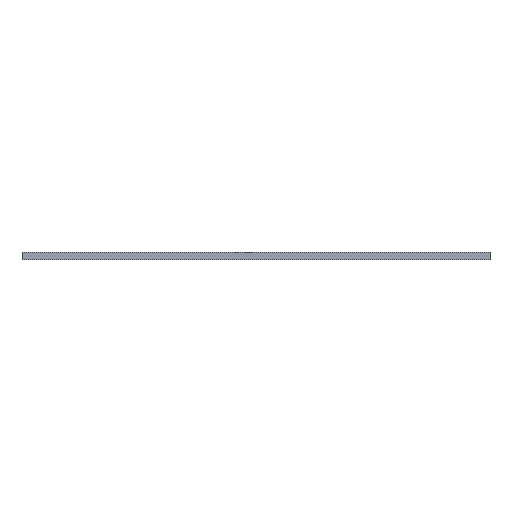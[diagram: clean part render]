
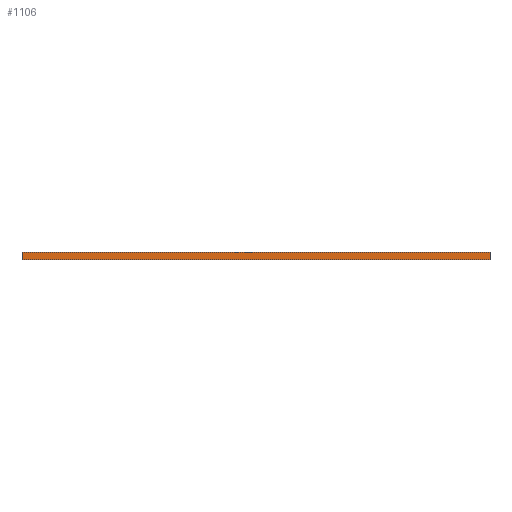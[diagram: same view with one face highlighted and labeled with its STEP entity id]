
A CAD part, front view. The second image highlights one B-rep face of the part: STEP entity #1106.
In plain terms, the highlighted planar face has unit normal (0, -1, 0).
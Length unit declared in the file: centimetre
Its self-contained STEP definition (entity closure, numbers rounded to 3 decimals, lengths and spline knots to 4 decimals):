
#106=VECTOR('',#1329,1.);
#111=VECTOR('',#1423,1.);
#114=VECTOR('',#1560,1.);
#115=VECTOR('',#1562,1.);
#118=LINE('',#1634,#106);
#123=LINE('',#1733,#111);
#126=LINE('',#1826,#114);
#127=LINE('',#1828,#115);
#132=PLANE('',#1256);
#166=VERTEX_POINT('',#1633);
#167=VERTEX_POINT('',#1635);
#213=VERTEX_POINT('',#1728);
#215=VERTEX_POINT('',#1732);
#366=EDGE_CURVE('',#167,#166,#118,.T.);
#415=EDGE_CURVE('',#213,#215,#123,.T.);
#440=EDGE_CURVE('',#215,#167,#126,.T.);
#441=EDGE_CURVE('',#213,#166,#127,.T.);
#650=ORIENTED_EDGE('',*,*,#366,.T.);
#651=ORIENTED_EDGE('',*,*,#441,.F.);
#652=ORIENTED_EDGE('',*,*,#415,.T.);
#653=ORIENTED_EDGE('',*,*,#440,.T.);
#854=EDGE_LOOP('',(#650,#651,#652,#653));
#1052=FACE_BOUND('',#854,.T.);
#1106=ADVANCED_FACE('',(#1052),#132,.T.);
#1256=AXIS2_PLACEMENT_3D('',#1827,#1561,$);
#1329=DIRECTION('',(-1.,0.,0.));
#1423=DIRECTION('',(1.,0.,0.));
#1560=DIRECTION('',(0.,0.,1.));
#1561=DIRECTION('',(0.,-1.,0.));
#1562=DIRECTION('',(0.,0.,1.));
#1633=CARTESIAN_POINT('',(-9.2075,-7.62,0.3));
#1634=CARTESIAN_POINT('',(-9.2075,-7.62,0.3));
#1635=CARTESIAN_POINT('',(9.2075,-7.62,0.3));
#1728=CARTESIAN_POINT('',(-9.2075,-7.62,0.));
#1732=CARTESIAN_POINT('',(9.2075,-7.62,0.));
#1733=CARTESIAN_POINT('',(-9.2075,-7.62,0.));
#1826=CARTESIAN_POINT('',(9.2075,-7.62,0.));
#1827=CARTESIAN_POINT('',(0.,-7.62,0.));
#1828=CARTESIAN_POINT('',(-9.2075,-7.62,0.));
